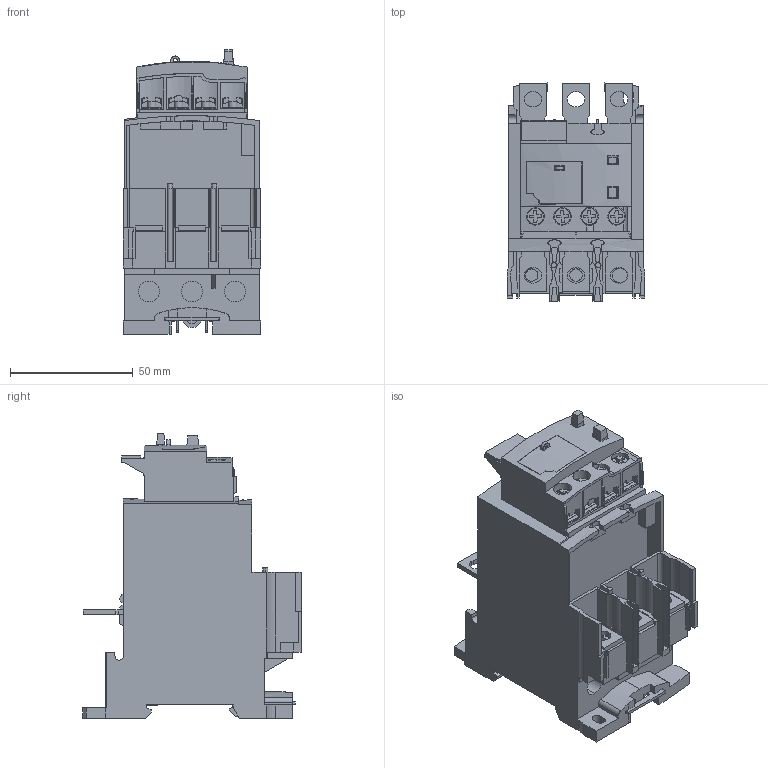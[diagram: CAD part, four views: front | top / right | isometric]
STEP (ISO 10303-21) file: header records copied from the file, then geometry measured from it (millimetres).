
FILE_DESCRIPTION((''),'2;1');
FILE_NAME('LRD3XX6-3D_ASM','2022-09-09T16:11:00',('SESA507772'),('Schneider-Electric'),'CREO PARAMETRIC BY PTC INC, 2021284','CREO PARAMETRIC BY PTC INC, 2021284','');
FILE_SCHEMA(('AP242_MANAGED_MODEL_BASED_3D_ENGINEERING_MIM_LF { 1 0 10303 442 1 1 4 }'));
Length unit declared in the file: millimetre
Products named in the file (2): LRD3XX6; LRD3XX6-3D_ASM
Assembly tree (1 placements, depth 2):
  LRD3XX6-3D_ASM
    LRD3XX6
Bounding box: 56 x 88.74 x 115.78 mm (x, y, z)
Volume: 262926.1 mm3; surface area: 55661.6 mm2
Topology: 2 solids, 2 shells, 1058 faces, 2961 edges, 1959 vertices
Faces by surface type: plane 840, cylinder 211, extrusion 7
Entity records: 47015 total; most frequent: CARTESIAN_POINT 6728, ORIENTED_EDGE 5922, DIRECTION 5374, PRESENTATION_STYLE_ASSIGNMENT 3283, STYLED_ITEM 2963, CURVE_STYLE 2961, EDGE_CURVE 2961, VECTOR 2442
